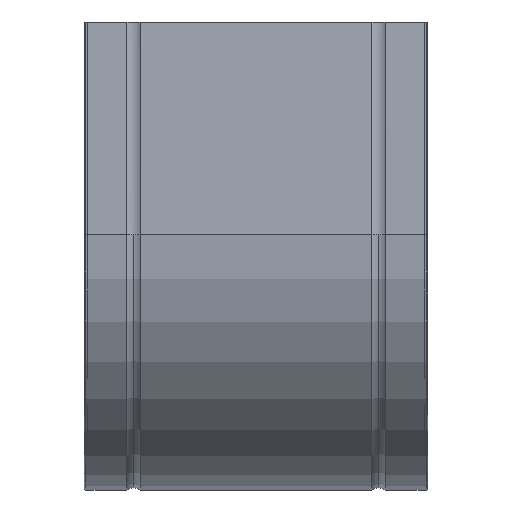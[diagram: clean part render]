
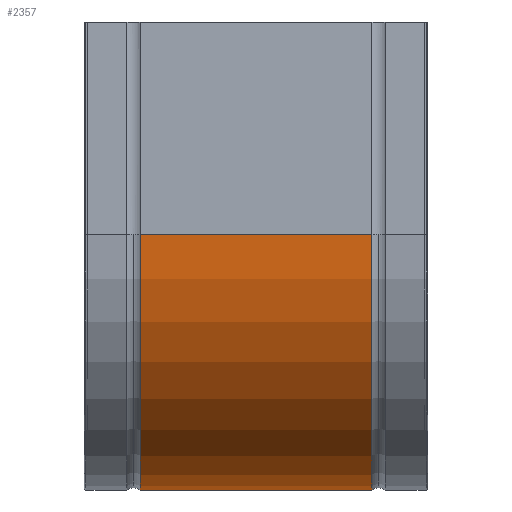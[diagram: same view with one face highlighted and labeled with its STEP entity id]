
A CAD part, front view. The second image highlights one B-rep face of the part: STEP entity #2357.
In plain terms, the highlighted cylindrical face has radius 150 mm (diameter 300 mm), a partial arc.
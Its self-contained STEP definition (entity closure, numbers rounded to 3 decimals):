
#88 = VECTOR ( 'NONE', #2636, 1000. ) ;
#211 = DIRECTION ( 'NONE',  ( 1., 0., 0. ) ) ;
#217 = AXIS2_PLACEMENT_3D ( 'NONE', #664, #1953, #498 ) ;
#260 = CARTESIAN_POINT ( 'NONE',  ( -68., 150., -275. ) ) ;
#308 = VERTEX_POINT ( 'NONE', #418 ) ;
#351 = LINE ( 'NONE', #1577, #88 ) ;
#418 = CARTESIAN_POINT ( 'NONE',  ( 68., 150., -275. ) ) ;
#498 = DIRECTION ( 'NONE',  ( 0., 0., -1. ) ) ;
#581 = LINE ( 'NONE', #1383, #981 ) ;
#600 = EDGE_CURVE ( 'NONE', #2108, #308, #351, .T. ) ;
#611 = VERTEX_POINT ( 'NONE', #1150 ) ;
#638 = CARTESIAN_POINT ( 'NONE',  ( 0., 150., -125. ) ) ;
#664 = CARTESIAN_POINT ( 'NONE',  ( -68., 150., -125. ) ) ;
#728 = ORIENTED_EDGE ( 'NONE', *, *, #2626, .F. ) ;
#832 = CIRCLE ( 'NONE', #217, 150. ) ;
#873 = EDGE_CURVE ( 'NONE', #611, #2108, #832, .T. ) ;
#973 = VERTEX_POINT ( 'NONE', #1348 ) ;
#981 = VECTOR ( 'NONE', #1623, 1000. ) ;
#1079 = DIRECTION ( 'NONE',  ( 0., 0., -1. ) ) ;
#1107 = CARTESIAN_POINT ( 'NONE',  ( 68., 150., -125. ) ) ;
#1150 = CARTESIAN_POINT ( 'NONE',  ( -68., 0., -125. ) ) ;
#1244 = FACE_OUTER_BOUND ( 'NONE', #1835, .T. ) ;
#1289 = ORIENTED_EDGE ( 'NONE', *, *, #873, .T. ) ;
#1348 = CARTESIAN_POINT ( 'NONE',  ( 68., 0., -125. ) ) ;
#1371 = AXIS2_PLACEMENT_3D ( 'NONE', #638, #211, #1079 ) ;
#1383 = CARTESIAN_POINT ( 'NONE',  ( -68., 0., -125. ) ) ;
#1577 = CARTESIAN_POINT ( 'NONE',  ( -68., 150., -275. ) ) ;
#1623 = DIRECTION ( 'NONE',  ( 1., 0., 0. ) ) ;
#1779 = AXIS2_PLACEMENT_3D ( 'NONE', #1107, #1981, #1958 ) ;
#1826 = CIRCLE ( 'NONE', #1779, 150. ) ;
#1835 = EDGE_LOOP ( 'NONE', ( #728, #1289, #2434, #2496 ) ) ;
#1953 = DIRECTION ( 'NONE',  ( 1., 0., 0. ) ) ;
#1958 = DIRECTION ( 'NONE',  ( 0., 0., -1. ) ) ;
#1981 = DIRECTION ( 'NONE',  ( 1., 0., 0. ) ) ;
#2108 = VERTEX_POINT ( 'NONE', #260 ) ;
#2357 = ADVANCED_FACE ( 'NONE', ( #1244 ), #2707, .T. ) ;
#2434 = ORIENTED_EDGE ( 'NONE', *, *, #600, .T. ) ;
#2496 = ORIENTED_EDGE ( 'NONE', *, *, #2585, .F. ) ;
#2585 = EDGE_CURVE ( 'NONE', #973, #308, #1826, .T. ) ;
#2626 = EDGE_CURVE ( 'NONE', #611, #973, #581, .T. ) ;
#2636 = DIRECTION ( 'NONE',  ( 1., 0., 0. ) ) ;
#2707 = CYLINDRICAL_SURFACE ( 'NONE', #1371, 150. ) ;
